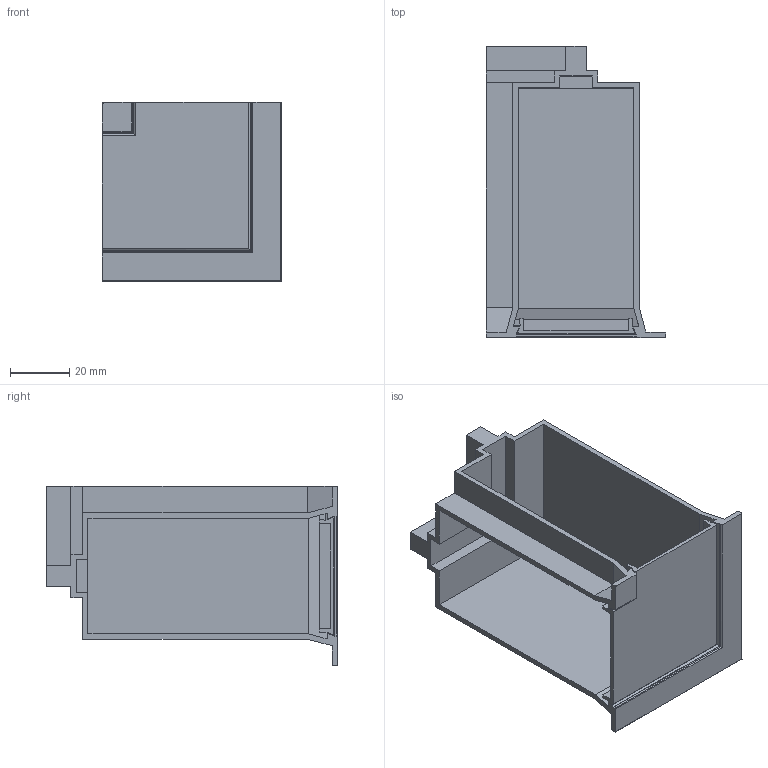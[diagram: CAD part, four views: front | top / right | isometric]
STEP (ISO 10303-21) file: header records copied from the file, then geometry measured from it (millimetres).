
FILE_DESCRIPTION(/* description */ (''),/* implementation_level */ '2;1');
FILE_NAME(/* name */ '02_x_t.stp',/* time_stamp */ '2018-03-02T11:08:32+01:00',/* author */ (''),/* organization */ (''),/* preprocessor_version */ 'ST-DEVELOPER v16',/* originating_system */ 'SIEMENS PLM Software NX 11.0',/* authorisation */ '');
FILE_SCHEMA (('AUTOMOTIVE_DESIGN { 1 0 10303 214 3 1 1 1 }'));
Length unit declared in the file: millimetre
Products named in the file (3): 02_id6_x_t; 02_id11_x_t; 02_x_t
Assembly tree (2 placements, depth 2):
  02_x_t
    02_id11_x_t
    02_id6_x_t
Bounding box: 60.45 x 98.2 x 60.45 mm (x, y, z)
Volume: 32983.1 mm3; surface area: 36547.8 mm2
Topology: 2 solids, 2 shells, 98 faces, 262 edges, 168 vertices
Faces by surface type: plane 74, bspline 24
Entity records: 3071 total; most frequent: CARTESIAN_POINT 675, ORIENTED_EDGE 524, DIRECTION 428, EDGE_CURVE 262, LINE 226, VECTOR 226, VERTEX_POINT 168, AXIS2_PLACEMENT_3D 101
